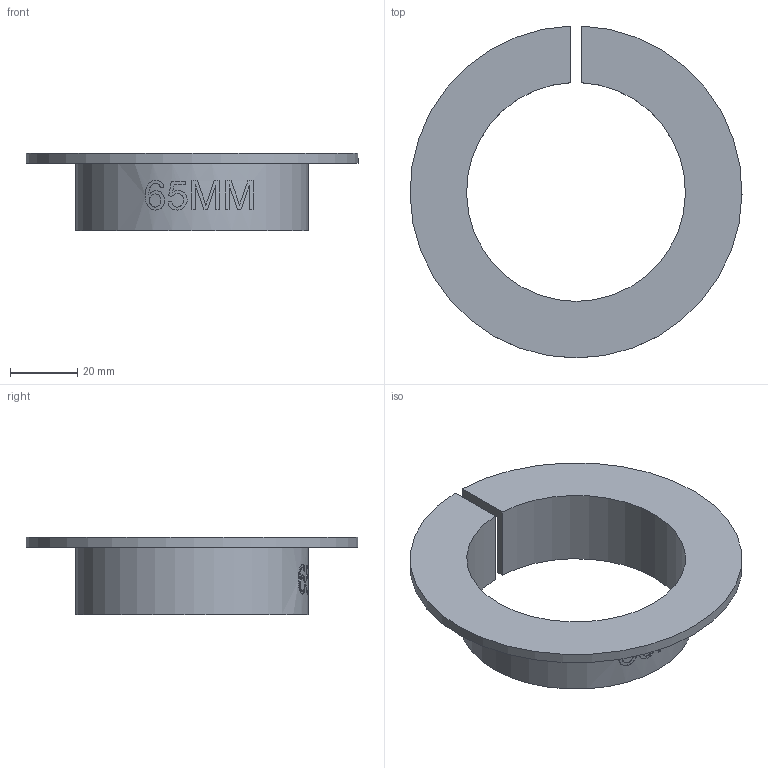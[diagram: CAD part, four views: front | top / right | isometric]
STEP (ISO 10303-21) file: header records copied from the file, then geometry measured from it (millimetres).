
FILE_DESCRIPTION(/* description */ (''),/* implementation_level */ '2;1');
FILE_NAME(/* name */ 'Dust-Shoe-Adaptor.step',/* time_stamp */ '2024-07-26T22:34:15+03:00',/* author */ (''),/* organization */ (''),/* preprocessor_version */ 'ST-DEVELOPER v20',/* originating_system */ 'Autodesk Translation Framework v13.14.0.145',/* authorisation */ '');
FILE_SCHEMA (('AUTOMOTIVE_DESIGN { 1 0 10303 214 3 1 1 }'));
Length unit declared in the file: millimetre
Products named in the file (1): Dust-Shoe-Adaptor
Bounding box: 98.59 x 98.58 x 23 mm (x, y, z)
Volume: 21398.8 mm3; surface area: 18595.8 mm2
Topology: 1 solids, 1 shells, 93 faces, 258 edges, 172 vertices
Faces by surface type: bspline 46, plane 39, cylinder 8
Entity records: 3645 total; most frequent: CARTESIAN_POINT 1490, ORIENTED_EDGE 516, DIRECTION 318, EDGE_CURVE 258, VERTEX_POINT 172, LINE 110, VECTOR 110, AXIS2_PLACEMENT_3D 104
